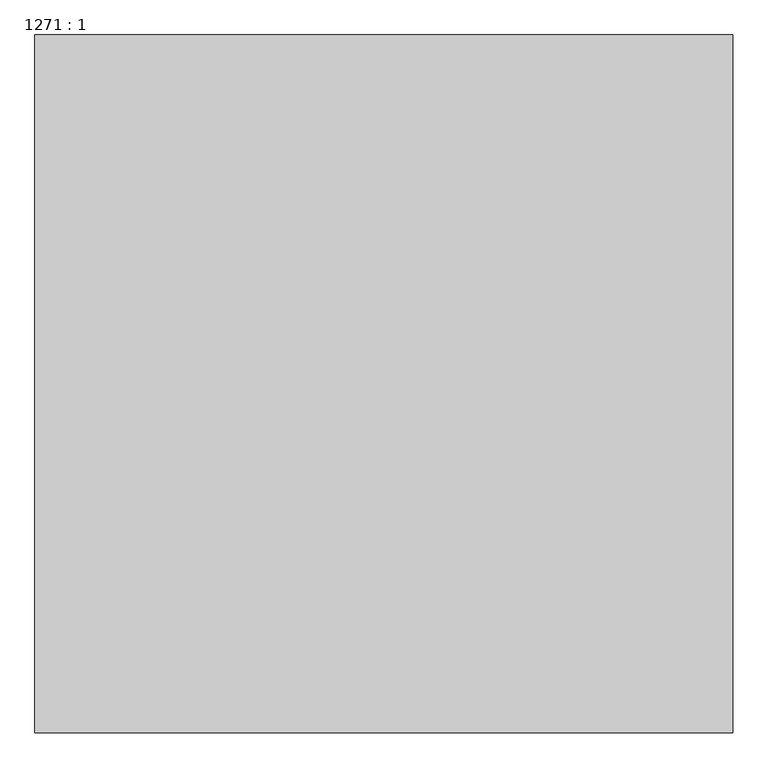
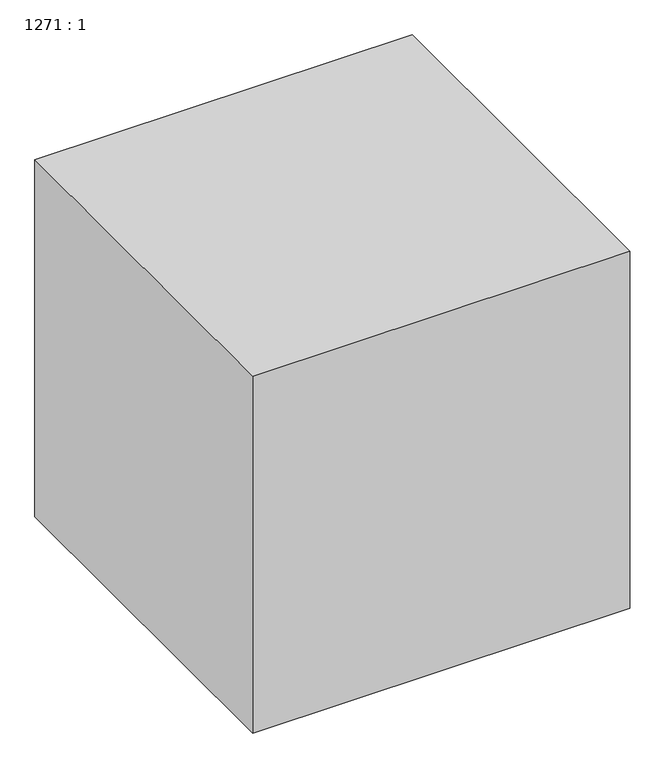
"""IFC4 building model written with IfcOpenShell, lengths in millimetres: proxy geometry, 1271 : 1."""

from ifc_helpers import new_model, si_unit, origin, origin_with_axes, place, context, project, spatial, polyline, outline, extrude, source, transform, mapped, element, save


def proxy_1271_1_d034cdbb(model_context):
    return source(origin(), model_context, "Body", "SweptSolid", [
        extrude(outline(polyline([(9692.0243292, -8664.7705528), (9692.0243292, -9664.7705528), (8692.0243292, -9664.7705528), (8692.0243292, -8664.7705528), (9692.0243292, -8664.7705528)])), origin_with_axes(), (0.0, 0.0, 1.0), 1000.0),
    ])


if __name__ == "__main__":
    model = new_model("IFC4")
    model_context = context("Model", 3, world=origin())
    ifc_project = project(units=[si_unit("LENGTHUNIT", "METRE", prefix="MILLI")], contexts=[model_context])
    site = spatial("IfcSite", under=ifc_project)
    building = spatial("IfcBuilding", under=site)
    placement = place(None, origin())
    proxy_1271_1_shape = proxy_1271_1_d034cdbb(model_context)
    element("IfcBuildingElementProxy", 1, Name="1271 : 1", ObjectType="1271 : 1", at=placement, inside=building, context=model_context, shape_type="MappedRepresentation", body=[
        mapped(proxy_1271_1_shape, transform((0.0, 0.0, 0.0), x_axis=(1.0, 0.0, 0.0), y_axis=(0.0, 1.0, 0.0), z_axis=(0.0, 0.0, 1.0))),
    ])
    save(model, "model.ifc")
